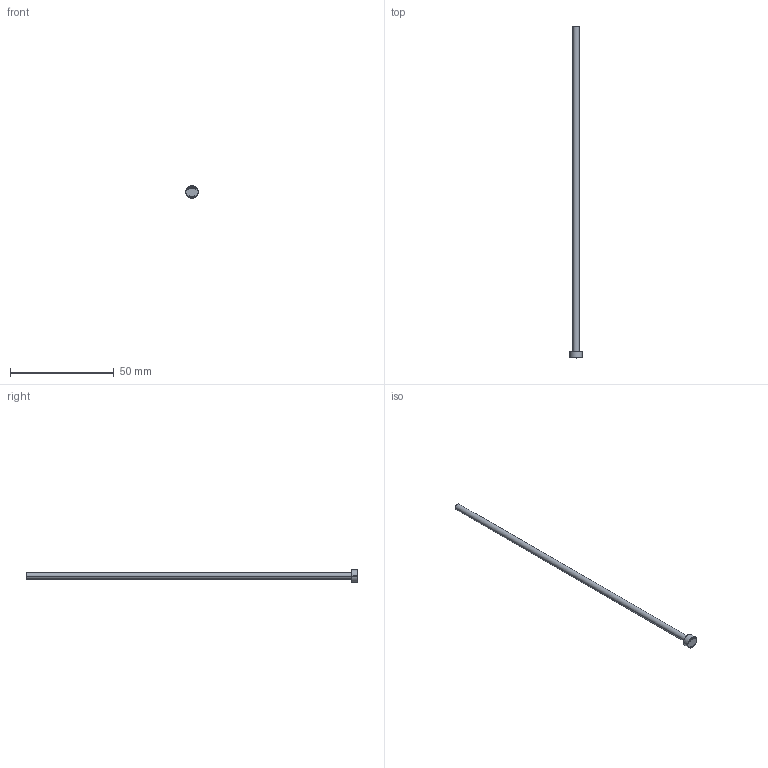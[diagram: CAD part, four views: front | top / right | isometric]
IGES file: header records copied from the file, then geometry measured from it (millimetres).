
Start section: SolidWorks IGES file using analytic representation for surfaces
Global section: file name: C:\Users\User\Downloads\Matripeça 31-08 tar\PB - PINO EXTRATOR TIPO _B_ (CATÁLOGO)\PB03,0\PB03,0160.IGS; native system: SolidWorks 2024; preprocessor: SolidWorks 2024; author: User; date: 260901.141513; units: millimetre
Bounding box: 6 x 160 x 6 mm (x, y, z)
Surface area: 1596.3 mm2 (no closed solid volume)
Topology: 0 solids, 0 shells, 402 faces, 3239 edges, 3239 vertices
Faces by surface type: bspline 388, revolution 14
